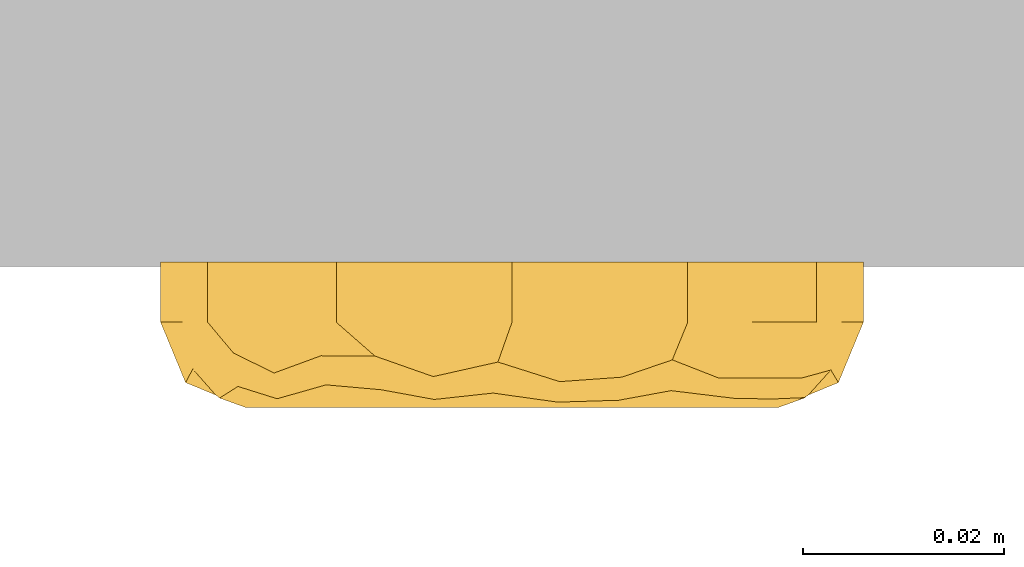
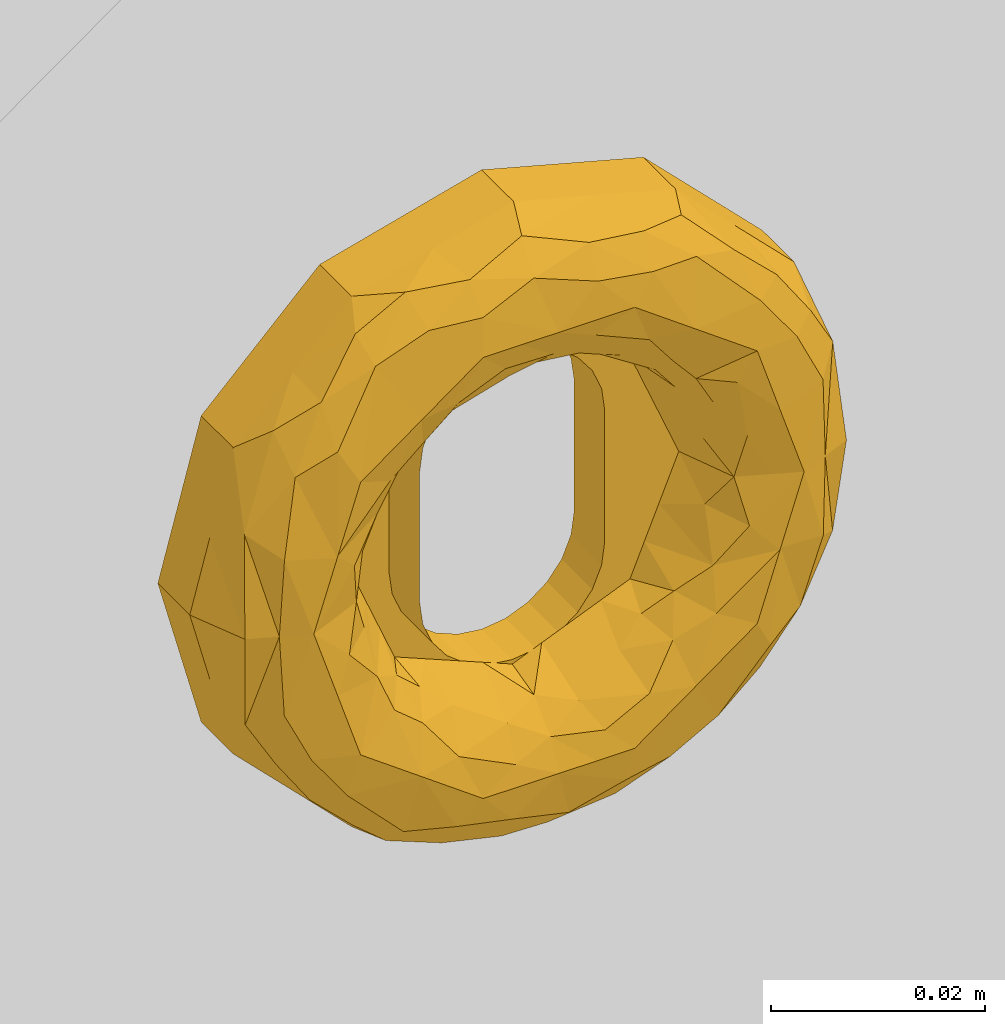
# One storey, part 2 of 2: 1 door.
"""IFC2X3 building model written with IfcOpenShell, lengths in feet."""

from ifc_helpers import new_model, entity, si_unit, converted_unit, derived_unit, direction, frame, origin, place, context, subcontext, project, spatial, face_set, surface_model, source, transform, mapped, type_object, type_shapes, element, save


model = new_model("IFC2X3")

# Units and contexts
model_context = context("Model", 3, precision=0.0001, world=origin(), true_north=direction((6.12303176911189e-17, 1.0)))
body_context = subcontext(model_context, "Body", "Model", "MODEL_VIEW")
ifc_project = project(units=[converted_unit("LENGTHUNIT", "FOOT", entity("IfcRatioMeasure", 0.3048), si_unit("LENGTHUNIT", "METRE"), dimensions=[1, 0, 0, 0, 0, 0, 0]), converted_unit("AREAUNIT", "SQUARE FOOT", entity("IfcRatioMeasure", 0.09290304), si_unit("AREAUNIT", "SQUARE_METRE"), dimensions=[2, 0, 0, 0, 0, 0, 0]), converted_unit("VOLUMEUNIT", "CUBIC FOOT", entity("IfcRatioMeasure", 0.028316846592), si_unit("VOLUMEUNIT", "CUBIC_METRE"), dimensions=[3, 0, 0, 0, 0, 0, 0]), converted_unit("PLANEANGLEUNIT", "DEGREE", entity("IfcRatioMeasure", 0.0174532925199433), si_unit("PLANEANGLEUNIT", "RADIAN"), dimensions=[0, 0, 0, 0, 0, 0, 0]), si_unit("MASSUNIT", "GRAM", prefix="KILO"), derived_unit("MASSDENSITYUNIT", [(si_unit("MASSUNIT", "GRAM", prefix="KILO"), 1), (si_unit("LENGTHUNIT", "METRE"), -3)]), si_unit("TIMEUNIT", "SECOND"), si_unit("FREQUENCYUNIT", "HERTZ"), si_unit("THERMODYNAMICTEMPERATUREUNIT", "DEGREE_CELSIUS"), derived_unit("THERMALTRANSMITTANCEUNIT", [(si_unit("MASSUNIT", "GRAM", prefix="KILO"), 1), (si_unit("THERMODYNAMICTEMPERATUREUNIT", "KELVIN"), -1), (si_unit("TIMEUNIT", "SECOND"), -3)]), derived_unit("VOLUMETRICFLOWRATEUNIT", [(si_unit("LENGTHUNIT", "METRE"), 3), (si_unit("TIMEUNIT", "SECOND"), -1)]), si_unit("ELECTRICCURRENTUNIT", "AMPERE"), si_unit("ELECTRICVOLTAGEUNIT", "VOLT"), si_unit("POWERUNIT", "WATT"), si_unit("FORCEUNIT", "NEWTON"), si_unit("ILLUMINANCEUNIT", "LUX"), si_unit("LUMINOUSFLUXUNIT", "LUMEN"), si_unit("LUMINOUSINTENSITYUNIT", "CANDELA"), derived_unit("USERDEFINED", [(si_unit("MASSUNIT", "GRAM", prefix="KILO"), -1), (si_unit("LENGTHUNIT", "METRE"), -2), (si_unit("TIMEUNIT", "SECOND"), 3), (si_unit("LUMINOUSFLUXUNIT", "LUMEN"), 1)]), derived_unit("LINEARVELOCITYUNIT", [(si_unit("LENGTHUNIT", "METRE"), 1), (si_unit("TIMEUNIT", "SECOND"), -1)]), si_unit("PRESSUREUNIT", "PASCAL"), derived_unit("USERDEFINED", [(si_unit("LENGTHUNIT", "METRE"), -2), (si_unit("MASSUNIT", "GRAM", prefix="KILO"), 1), (si_unit("TIMEUNIT", "SECOND"), -2)])], contexts=[model_context])

# Site, building, storey
site_placement = place(None, origin())
site = spatial("IfcSite", under=ifc_project, at=site_placement, Name="Default", CompositionType="ELEMENT")
building_placement = place(site_placement, origin())
building = spatial("IfcBuilding", under=site, at=building_placement, CompositionType="ELEMENT")
storey_placement = place(building_placement, origin())
storey = spatial("IfcBuildingStorey", under=building, at=storey_placement, Name="Level 1", CompositionType="ELEMENT", Elevation=0.0)

# Door
door_style = type_object("IfcDoorStyle", Name="dline_Hardware_TomDixonCollection_Escutcheons_Oval_Half_SnapOn_5.25", ConstructionType="NOTDEFINED", OperationType="DOUBLE_SWING_RIGHT", ParameterTakesPrecedence=False, Sizeable=False)
shared_shape = source(origin(), body_context, "Body", "SurfaceModel", [
    surface_model("IfcFaceBasedSurfaceModel", [(-0.114829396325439, 0.0, -0.00161922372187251), (-0.0994451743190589, 0.0574146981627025, -0.00161922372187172), (-0.0574146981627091, 0.0994451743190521, -0.00161922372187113), (0.0, 0.114829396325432, -0.00161922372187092), (0.0574146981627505, 0.099445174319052, -0.00161922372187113), (0.0994451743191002, 0.0574146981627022, -0.00161922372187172), (0.11482939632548, 0.0, -0.00161922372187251), (0.0328083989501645, 0.0, -0.00161922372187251), (0.0328083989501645, 0.0246062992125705, -0.00161922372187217), (0.0316904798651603, 0.0330977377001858, -0.00161922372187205), (0.0284129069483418, 0.041010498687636, -0.00161922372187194), (0.0231990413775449, 0.0478053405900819, -0.00161922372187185), (0.0164041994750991, 0.0530192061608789, -0.00161922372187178), (0.00849143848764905, 0.0562967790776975, -0.00161922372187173), (0.0, 0.0574146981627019, -0.00161922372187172), (-0.00849143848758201, 0.0562967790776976, -0.00161922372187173), (-0.0164041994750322, 0.0530192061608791, -0.00161922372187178), (-0.023199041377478, 0.0478053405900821, -0.00161922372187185), (-0.0284129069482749, 0.0410104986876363, -0.00161922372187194), (-0.0316904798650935, 0.0330977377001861, -0.00161922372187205), (-0.0328083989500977, 0.0246062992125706, -0.00161922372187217), (-0.0328083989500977, 0.0, -0.00161922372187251), (0.0994451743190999, -0.0574146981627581, -0.0016192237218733), (0.0574146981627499, -0.0994451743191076, -0.00161922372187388), (0.0, -0.114829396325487, -0.0016192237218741), (-0.0574146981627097, -0.099445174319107, -0.00161922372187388), (-0.0994451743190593, -0.0574146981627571, -0.0016192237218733), (-0.0328083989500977, -0.0246062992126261, -0.00161922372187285), (-0.0316904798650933, -0.0330977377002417, -0.00161922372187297), (-0.0284129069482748, -0.0410104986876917, -0.00161922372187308), (-0.0231990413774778, -0.0478053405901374, -0.00161922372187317), (-0.0164041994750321, -0.0530192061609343, -0.00161922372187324), (-0.00849143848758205, -0.0562967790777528, -0.00161922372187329), (0.0, -0.0574146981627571, -0.0016192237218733), (0.0084914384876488, -0.0562967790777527, -0.00161922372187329), (0.0164041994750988, -0.0530192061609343, -0.00161922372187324), (0.0231990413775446, -0.0478053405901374, -0.00161922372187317), (0.0284129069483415, -0.0410104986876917, -0.00161922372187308), (0.0316904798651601, -0.0330977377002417, -0.00161922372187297), (0.0328083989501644, -0.0246062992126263, -0.00161922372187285), (0.103991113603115, 0.0404490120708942, 0.0180446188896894), (0.107137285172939, 0.0287073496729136, -0.0016192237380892), (0.109410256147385, 0.0202245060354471, 0.0180446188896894), (-0.107137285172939, 0.0287073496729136, 0.0180446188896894), (-0.0994451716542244, 0.0574146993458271, 0.0180446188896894), (-0.107137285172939, 0.0287073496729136, -0.0016192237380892), (0.0784299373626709, 0.0784299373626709, 0.0180446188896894), (0.0994451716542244, 0.0574146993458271, 0.0180446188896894), (0.0784299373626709, 0.0784299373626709, -0.0016192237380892), (0.114829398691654, 0.0, 0.0180446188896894), (0.0574146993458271, 0.0994451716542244, 0.0180446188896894), (0.0287073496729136, 0.107137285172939, -0.0016192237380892), (0.0, 0.114829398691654, 0.0180446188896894), (0.0287073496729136, 0.107137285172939, 0.0180446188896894), (-0.0287073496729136, 0.107137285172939, 0.0180446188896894), (-0.0287073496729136, 0.107137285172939, -0.0016192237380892), (-0.0784299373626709, 0.0784299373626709, -0.0016192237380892), (-0.0784299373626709, 0.0784299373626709, 0.0180446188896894), (-0.0574146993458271, 0.0994451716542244, 0.0180446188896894), (-0.114829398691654, 0.0, 0.0180446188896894), (-0.103991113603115, -0.0404490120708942, 0.0180446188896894), (-0.107137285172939, -0.0287073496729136, -0.0016192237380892), (-0.109410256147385, -0.0202245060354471, 0.0180446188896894), (0.107137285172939, -0.0287073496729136, 0.0180446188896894), (0.0994451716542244, -0.0574146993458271, 0.0180446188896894), (0.107137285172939, -0.0287073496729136, -0.0016192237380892), (-0.0784299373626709, -0.0784299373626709, 0.0180446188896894), (-0.0994451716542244, -0.0574146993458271, 0.0180446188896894), (-0.0784299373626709, -0.0784299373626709, -0.0016192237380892), (-0.0574146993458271, -0.0994451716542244, 0.0180446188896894), (-0.0287073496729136, -0.107137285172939, -0.0016192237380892), (0.0, -0.114829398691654, 0.0180446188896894), (-0.0287073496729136, -0.107137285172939, 0.0180446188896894), (0.0287073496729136, -0.107137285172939, 0.0180446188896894), (0.0287073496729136, -0.107137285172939, -0.0016192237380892), (0.0784299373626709, -0.0784299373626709, -0.0016192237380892), (0.0784299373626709, -0.0784299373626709, 0.0180446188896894), (0.0574146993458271, -0.0994451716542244, 0.0180446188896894), (0.104185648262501, 0.0354321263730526, 0.0336624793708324), (0.10769384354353, 0.0266302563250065, 0.0180446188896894), (-0.00460470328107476, 0.111512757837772, 0.0310563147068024), (-0.0257417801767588, 0.105345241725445, 0.035802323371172), (-0.00619756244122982, 0.102307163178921, 0.0411922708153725), (0.0358880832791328, 0.102162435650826, 0.0359968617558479), (0.0155927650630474, 0.105819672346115, 0.0374582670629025), (0.095525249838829, 0.0295866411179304, 0.0426846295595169), (0.0948657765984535, 0.0518237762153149, 0.0362137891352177), (0.086100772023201, 0.0492820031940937, 0.0430898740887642), (-0.0607702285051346, 0.086708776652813, 0.03851168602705), (-0.0427446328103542, 0.0948088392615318, 0.0401071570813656), (-0.0447977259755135, 0.103246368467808, 0.0290958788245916), (0.106661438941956, 0.0, 0.0377638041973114), (0.0676873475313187, 0.0841498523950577, 0.0363340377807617), (0.0520024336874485, 0.0896197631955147, 0.0403992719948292), (0.0733057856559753, 0.0671199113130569, 0.0429983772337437), (0.0703377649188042, 0.051103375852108, 0.0459317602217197), (0.0523817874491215, 0.0989614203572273, 0.0303458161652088), (0.0348720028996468, 0.0918425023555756, 0.0435407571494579), (-0.0623906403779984, 0.093721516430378, 0.0289958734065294), (0.0968018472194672, 0.0, 0.0418477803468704), (0.0486022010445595, 0.0668951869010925, 0.0459317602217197), (-0.104311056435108, 0.0357333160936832, 0.0333381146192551), (-0.0895434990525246, 0.0554412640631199, 0.0390218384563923), (-0.0910296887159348, 0.0668764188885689, 0.0280956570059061), (-0.0253979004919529, 0.0954931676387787, 0.0432791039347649), (-0.0486022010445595, 0.0668951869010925, 0.0459317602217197), (-0.0777445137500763, 0.0769081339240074, 0.0346352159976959), (-0.0767557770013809, 0.0629682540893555, 0.0430542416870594), (-0.0955414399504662, 0.0286489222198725, 0.0428196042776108), (-0.0968018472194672, 0.0, 0.0418477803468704), (-0.10769384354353, 0.0266302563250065, 0.0180446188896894), (-0.106661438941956, 0.0, 0.0377638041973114), (0.0149465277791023, 0.0955802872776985, 0.0441532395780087), (-0.0786400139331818, 0.025551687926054, 0.0459317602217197), (-0.0869422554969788, 0.0, 0.0459317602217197), (0.0869422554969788, 0.0, 0.0459317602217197), (0.0786400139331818, 0.025551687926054, 0.0459317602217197), (0.0827525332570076, 0.069546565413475, 0.0362165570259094), (0.0268666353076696, 0.0826869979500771, 0.0459317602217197), (0.0, 0.0826869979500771, 0.0459317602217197), (-0.0703377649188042, 0.051103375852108, 0.0459317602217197), (-0.0268666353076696, 0.0826869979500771, 0.0459317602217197), (-0.104185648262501, -0.0354321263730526, 0.0336624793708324), (-0.10769384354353, -0.0266302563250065, 0.0180446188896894), (0.0895434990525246, -0.0554412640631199, 0.0390218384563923), (0.0786400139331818, -0.025551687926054, 0.0459317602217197), (0.0767557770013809, -0.0629682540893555, 0.0430542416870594), (0.10769384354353, -0.0266302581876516, 0.0180446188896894), (0.104311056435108, -0.0357333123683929, 0.0333381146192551), (-0.095525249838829, -0.0295866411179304, 0.0426846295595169), (-0.0948657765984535, -0.0518237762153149, 0.0362137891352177), (-0.086100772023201, -0.0492820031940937, 0.0430898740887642), (-0.0486022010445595, -0.0668951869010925, 0.0459317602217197), (-0.0703377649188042, -0.051103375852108, 0.0459317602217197), (-0.0733057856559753, -0.0671199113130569, 0.0429983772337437), (-0.0358880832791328, -0.102162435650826, 0.0359968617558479), (-0.0155927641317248, -0.105819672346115, 0.0374582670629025), (-0.0676873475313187, -0.0841498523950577, 0.0363340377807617), (-0.0520024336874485, -0.0896197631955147, 0.0403992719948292), (-0.0348720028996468, -0.0918425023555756, 0.0435407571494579), (0.00460470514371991, -0.111512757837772, 0.0310563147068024), (0.0910296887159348, -0.0668764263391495, 0.0280956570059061), (0.0607702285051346, -0.0867087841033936, 0.03851168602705), (0.0447977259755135, -0.103246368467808, 0.0290958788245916), (0.0623906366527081, -0.093721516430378, 0.0289958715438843), (0.0427446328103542, -0.0948088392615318, 0.0401071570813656), (0.025397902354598, -0.0954931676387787, 0.0432791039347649), (0.0257417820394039, -0.105345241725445, 0.035802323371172), (0.0777445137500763, -0.0769081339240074, 0.0346352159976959), (0.0955414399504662, -0.0286489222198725, 0.0428196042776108), (0.00619756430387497, -0.102307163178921, 0.0411922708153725), (-0.0149465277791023, -0.0955802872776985, 0.0441532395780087), (0.0486022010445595, -0.0668951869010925, 0.0459317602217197), (-0.0523817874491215, -0.0989614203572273, 0.0303458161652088), (-0.0786400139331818, -0.025551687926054, 0.0459317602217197), (-0.0827525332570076, -0.069546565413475, 0.0362165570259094), (-0.0268666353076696, -0.0826869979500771, 0.0459317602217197), (0.0, -0.0826869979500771, 0.0459317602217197), (0.0703377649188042, -0.051103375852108, 0.0459317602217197), (0.0268666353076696, -0.0826869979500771, 0.0459317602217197), (0.0595088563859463, 0.030643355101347, 0.0374716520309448), (0.0784134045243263, 0.0262491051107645, 0.0459317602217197), (0.0484802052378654, 0.0383875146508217, 0.0301881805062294), (0.044356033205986, 0.052351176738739, 0.0390642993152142), (0.0548929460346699, 0.0432777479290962, 0.0401194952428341), (-0.0606496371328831, 0.0123952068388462, 0.0303223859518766), (-0.0519581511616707, 0.0171627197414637, 0.017224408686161), (-0.0590671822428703, 0.0, 0.017224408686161), (0.0724360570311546, 0.0148040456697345, 0.0427116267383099), (0.06114686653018, 0.0148187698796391, 0.0322035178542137), (0.0669351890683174, 0.0, 0.0374716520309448), (0.0590671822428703, 0.0, 0.017224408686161), (0.000194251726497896, 0.0621994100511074, 0.0309092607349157), (0.000380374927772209, 0.0715737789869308, 0.0413154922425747), (0.0129081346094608, 0.0648935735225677, 0.0366455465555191), (0.0519581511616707, 0.0171627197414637, 0.017224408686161), (0.0337963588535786, 0.0663290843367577, 0.0429736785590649), (-0.0578487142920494, 0.0450543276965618, 0.0423803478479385), (-0.0784134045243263, 0.0262491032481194, 0.0459317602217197), (0.0468624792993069, 0.0294647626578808, 0.017224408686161), (-0.0595088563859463, 0.030643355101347, 0.0374716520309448), (-0.0700549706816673, 0.0169776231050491, 0.0416431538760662), (-0.0337963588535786, 0.0663290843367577, 0.0429736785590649), (-0.0123898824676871, 0.0651603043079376, 0.0368258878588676), (-0.029567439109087, 0.055287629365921, 0.0318241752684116), (-0.0669351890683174, 0.0, 0.0374716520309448), (-0.044356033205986, 0.052351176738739, 0.0390642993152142), (-0.0487650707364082, 0.039685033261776, 0.0321276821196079), (0.0417668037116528, 0.0417668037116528, 0.017224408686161), (0.0394373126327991, 0.0467448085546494, 0.0286699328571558), (0.0143742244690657, 0.0754772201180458, 0.0440352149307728), (0.0208834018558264, 0.0504169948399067, 0.017224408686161), (0.0104417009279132, 0.0547420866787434, 0.017224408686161), (-0.0313251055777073, 0.0460918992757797, 0.017224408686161), (-0.0390795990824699, 0.0469961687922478, 0.0285797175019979), (0.0295674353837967, 0.0552876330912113, 0.0318241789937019), (-0.0104417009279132, 0.0547420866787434, 0.017224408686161), (-0.017739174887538, 0.0738889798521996, 0.0436904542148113), (-0.0134333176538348, 0.0826869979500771, 0.0459317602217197), (0.0313251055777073, 0.0460918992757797, 0.017224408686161), (-0.0417668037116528, 0.0417668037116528, 0.017224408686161), (-0.0468624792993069, 0.0294647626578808, 0.017224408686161), (-0.0208834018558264, 0.0504169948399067, 0.017224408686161), (0.0, 0.0590671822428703, 0.017224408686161), (-0.0784134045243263, -0.0262491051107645, 0.0459317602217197), (-0.0695305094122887, -0.0168505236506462, 0.0412946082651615), (-0.0647844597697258, -0.0398912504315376, 0.0437298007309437), (-0.0295674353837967, -0.0552876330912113, 0.0318241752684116), (-0.0435471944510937, -0.0435946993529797, 0.029723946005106), (-0.0313251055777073, -0.0460918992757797, 0.017224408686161), (-0.0208834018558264, -0.0504169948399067, 0.017224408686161), (-0.0104417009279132, -0.0547420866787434, 0.017224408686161), (-0.0129081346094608, -0.0648935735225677, 0.0366455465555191), (-0.0443560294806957, -0.0523511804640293, 0.0390642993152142), (-0.0530390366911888, -0.042167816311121, 0.0382854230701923), (-0.0743755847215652, -0.0386762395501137, 0.0459317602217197), (-0.0417668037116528, -0.0417668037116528, 0.017224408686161), (-0.0510150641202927, -0.0340855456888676, 0.0291330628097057), (0.0606496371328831, -0.0123952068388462, 0.0303223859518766), (0.0519581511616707, -0.0171627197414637, 0.017224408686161), (-0.0337963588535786, -0.0663290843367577, 0.0429736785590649), (0.044356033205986, -0.052351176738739, 0.0390642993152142), (0.0337963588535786, -0.0663290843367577, 0.0429736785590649), (0.0578487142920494, -0.0450543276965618, 0.0423803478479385), (0.0784134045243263, -0.0262491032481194, 0.0459317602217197), (0.0595088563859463, -0.030643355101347, 0.0374716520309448), (0.0700549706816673, -0.0169776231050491, 0.0416431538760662), (-0.060554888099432, -0.0119150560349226, 0.0299327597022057), (0.0123898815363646, -0.0651603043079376, 0.0368258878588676), (0.0295674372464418, -0.055287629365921, 0.0318241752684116), (-0.0776933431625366, 0.0, 0.0420208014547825), (0.0487650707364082, -0.039685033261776, 0.0321276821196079), (-0.0143742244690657, -0.0754772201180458, 0.0440352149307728), (-0.000194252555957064, -0.0621994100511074, 0.0309092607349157), (-0.000380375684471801, -0.0715737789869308, 0.0413154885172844), (0.0313251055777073, -0.0460918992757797, 0.017224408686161), (0.0390795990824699, -0.0469961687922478, 0.0285797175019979), (0.0104417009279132, -0.0547420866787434, 0.017224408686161), (0.017739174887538, -0.0738889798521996, 0.0436904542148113), (0.0134333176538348, -0.0826869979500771, 0.0459317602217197), (-0.0519581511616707, -0.0171627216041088, 0.017224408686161), (-0.059508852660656, -0.0306433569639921, 0.0374716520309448), (-0.0468624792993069, -0.0294647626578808, 0.017224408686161), (0.0417668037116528, -0.0417668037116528, 0.017224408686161), (0.0468624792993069, -0.0294647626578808, 0.017224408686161), (0.0208834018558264, -0.0504169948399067, 0.017224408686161), (0.0, -0.0590671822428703, 0.017224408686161), (0.0328083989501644, 0.0, 0.0172244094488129), (0.0328083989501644, 0.0246062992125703, 0.0172244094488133), (0.0316904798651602, 0.0330977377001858, 0.0172244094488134), (0.0284129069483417, 0.0410104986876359, 0.0172244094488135), (0.0231990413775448, 0.0478053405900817, 0.0172244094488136), (0.0164041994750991, 0.0530192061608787, 0.0172244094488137), (0.008491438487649, 0.0562967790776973, 0.0172244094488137), (0.0, 0.0574146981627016, 0.0172244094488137), (-0.00849143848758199, 0.0562967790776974, 0.0172244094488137), (-0.0164041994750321, 0.0530192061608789, 0.0172244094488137), (-0.0231990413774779, 0.0478053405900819, 0.0172244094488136), (-0.0284129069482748, 0.0410104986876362, 0.0172244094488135), (-0.0316904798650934, 0.0330977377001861, 0.0172244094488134), (-0.0328083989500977, 0.0246062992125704, 0.0172244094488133), (-0.0328083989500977, 0.0, 0.0172244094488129), (-0.0328083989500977, -0.0246062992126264, 0.0172244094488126), (-0.0316904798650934, -0.0330977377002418, 0.0172244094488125), (-0.0284129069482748, -0.0410104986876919, 0.0172244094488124), (-0.0231990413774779, -0.0478053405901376, 0.0172244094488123), (-0.0164041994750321, -0.0530192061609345, 0.0172244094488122), (-0.00849143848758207, -0.056296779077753, 0.0172244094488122), (0.0, -0.0574146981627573, 0.0172244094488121), (0.00849143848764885, -0.056296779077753, 0.0172244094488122), (0.0164041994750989, -0.0530192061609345, 0.0172244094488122), (0.0231990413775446, -0.0478053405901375, 0.0172244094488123), (0.0284129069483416, -0.0410104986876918, 0.0172244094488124), (0.0316904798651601, -0.0330977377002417, 0.0172244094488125), (0.0328083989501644, -0.0246062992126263, 0.0172244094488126)], [face_set([[[0, 1, 2, 3, 4, 5, 6, 7, 8, 9, 10, 11, 12, 13, 14, 15, 16, 17, 18, 19, 20, 21]], [[6, 22, 23, 24, 25, 26, 0, 21, 27, 28, 29, 30, 31, 32, 33, 34, 35, 36, 37, 38, 39, 7]], [[5, 40, 41]], [[41, 40, 42]], [[43, 44, 1, 45]], [[46, 47, 5, 48]], [[6, 41, 42]], [[42, 49, 6]], [[50, 46, 48, 4]], [[51, 3, 52, 53]], [[5, 47, 40]], [[4, 51, 53, 50]], [[54, 52, 3, 55]], [[56, 1, 44, 57]], [[2, 56, 57, 58]], [[45, 0, 59, 43]], [[55, 2, 58, 54]], [[26, 60, 61]], [[61, 60, 62]], [[63, 64, 22, 65]], [[66, 67, 26, 68]], [[0, 61, 62]], [[62, 59, 0]], [[69, 66, 68, 25]], [[70, 24, 71, 72]], [[26, 67, 60]], [[25, 70, 72, 69]], [[73, 71, 24, 74]], [[75, 22, 64, 76]], [[23, 75, 76, 77]], [[65, 6, 49, 63]], [[74, 23, 77, 73]], [[47, 78, 79]], [[80, 81, 82]], [[83, 53, 84]], [[85, 86, 87]], [[88, 89, 90]], [[78, 91, 79]], [[92, 93, 94]], [[78, 86, 85]], [[87, 94, 95]], [[96, 93, 92]], [[93, 83, 97]], [[80, 54, 81]], [[80, 84, 53]], [[91, 49, 79]], [[90, 98, 88]], [[85, 99, 78]], [[100, 95, 94]], [[101, 102, 103]], [[86, 47, 46]], [[89, 104, 81]], [[104, 89, 105]], [[106, 107, 88]], [[108, 101, 109]], [[50, 92, 46]], [[110, 111, 101]], [[84, 112, 97]], [[102, 113, 107]], [[44, 103, 57]], [[101, 44, 110]], [[110, 59, 111]], [[109, 114, 108]], [[99, 85, 115]], [[99, 91, 78]], [[47, 86, 78]], [[87, 95, 116]], [[116, 115, 85]], [[87, 86, 117]], [[87, 117, 94]], [[85, 87, 116]], [[92, 94, 117]], [[100, 94, 93]], [[92, 117, 46]], [[96, 92, 50]], [[52, 80, 53]], [[83, 93, 96]], [[96, 50, 53]], [[53, 83, 96]], [[97, 100, 93]], [[112, 84, 82]], [[84, 97, 83]], [[100, 97, 118]], [[104, 119, 82]], [[118, 97, 112]], [[119, 118, 112]], [[104, 82, 81]], [[119, 112, 82]], [[84, 80, 82]], [[58, 90, 54]], [[88, 120, 105]], [[119, 104, 121]], [[89, 81, 90]], [[121, 104, 105]], [[105, 89, 88]], [[80, 52, 54]], [[54, 90, 81]], [[90, 58, 98]], [[103, 102, 106]], [[106, 88, 98]], [[98, 58, 57]], [[57, 106, 98]], [[107, 106, 102]], [[57, 103, 106]], [[101, 103, 44]], [[86, 46, 117]], [[88, 107, 120]], [[102, 108, 113]], [[113, 120, 107]], [[101, 111, 109]], [[113, 108, 114]], [[101, 108, 102]], [[67, 122, 123]], [[124, 125, 126]], [[127, 91, 128]], [[129, 130, 131]], [[132, 133, 134]], [[122, 111, 123]], [[135, 72, 136]], [[122, 130, 129]], [[131, 134, 133]], [[137, 138, 134]], [[138, 135, 139]], [[130, 67, 66]], [[140, 136, 72]], [[129, 109, 122]], [[128, 124, 141]], [[111, 59, 123]], [[64, 141, 76]], [[142, 143, 144]], [[69, 137, 66]], [[145, 146, 147]], [[140, 73, 147]], [[148, 126, 142]], [[149, 128, 99]], [[140, 147, 150]], [[142, 145, 143]], [[136, 151, 139]], [[146, 145, 152]], [[153, 138, 137]], [[128, 64, 127]], [[127, 49, 91]], [[99, 115, 149]], [[109, 129, 114]], [[109, 111, 122]], [[67, 130, 122]], [[131, 133, 154]], [[154, 114, 129]], [[131, 130, 155]], [[131, 155, 134]], [[129, 131, 154]], [[137, 134, 155]], [[132, 134, 138]], [[137, 155, 66]], [[153, 137, 69]], [[71, 140, 72]], [[135, 138, 153]], [[153, 69, 72]], [[72, 135, 153]], [[139, 132, 138]], [[151, 136, 150]], [[136, 139, 135]], [[132, 139, 156]], [[146, 157, 150]], [[156, 139, 151]], [[157, 156, 151]], [[146, 150, 147]], [[157, 151, 150]], [[136, 140, 150]], [[77, 143, 73]], [[142, 158, 152]], [[157, 146, 159]], [[145, 147, 143]], [[159, 146, 152]], [[152, 145, 142]], [[140, 71, 73]], [[73, 143, 147]], [[143, 77, 144]], [[141, 124, 148]], [[148, 142, 144]], [[144, 77, 76]], [[76, 148, 144]], [[126, 148, 124]], [[76, 141, 148]], [[128, 141, 64]], [[130, 66, 155]], [[142, 126, 158]], [[124, 149, 125]], [[125, 158, 126]], [[128, 91, 99]], [[125, 149, 115]], [[128, 149, 124]], [[160, 95, 161]], [[162, 163, 164]], [[160, 162, 164]], [[165, 166, 167]], [[160, 168, 169]], [[170, 171, 169]], [[172, 173, 174]], [[175, 160, 169]], [[176, 100, 163]], [[163, 100, 164]], [[177, 178, 120]], [[160, 179, 162]], [[180, 166, 165]], [[181, 180, 165]], [[178, 177, 180]], [[182, 183, 184]], [[181, 185, 114]], [[186, 187, 177]], [[178, 180, 181]], [[168, 161, 115]], [[188, 189, 162]], [[190, 176, 118]], [[186, 105, 182]], [[191, 192, 174]], [[184, 193, 194]], [[163, 195, 176]], [[172, 183, 173]], [[105, 121, 182]], [[172, 196, 183]], [[173, 119, 190]], [[173, 197, 198]], [[118, 100, 176]], [[195, 191, 174]], [[176, 195, 174]], [[189, 199, 195]], [[186, 182, 184]], [[105, 177, 120]], [[197, 183, 182]], [[187, 186, 194]], [[188, 162, 179]], [[160, 175, 179]], [[163, 162, 189]], [[164, 95, 160]], [[95, 164, 100]], [[189, 195, 163]], [[175, 169, 171]], [[191, 195, 199]], [[189, 188, 199]], [[170, 169, 168]], [[170, 168, 115]], [[161, 168, 160]], [[178, 181, 114]], [[185, 181, 165]], [[185, 165, 167]], [[200, 201, 187]], [[201, 166, 180]], [[180, 177, 187]], [[186, 177, 105]], [[180, 187, 201]], [[200, 187, 194]], [[184, 202, 193]], [[194, 186, 184]], [[193, 200, 194]], [[174, 192, 172]], [[196, 202, 183]], [[203, 172, 192]], [[174, 173, 190]], [[198, 119, 173]], [[197, 198, 121]], [[182, 197, 121]], [[183, 197, 173]], [[174, 190, 176]], [[118, 190, 119]], [[184, 183, 202]], [[196, 172, 203]], [[204, 205, 206]], [[207, 208, 209]], [[210, 211, 212]], [[208, 213, 214]], [[206, 215, 133]], [[216, 208, 217]], [[218, 219, 171]], [[206, 204, 215]], [[220, 132, 213]], [[221, 152, 222]], [[223, 224, 158]], [[132, 133, 213]], [[225, 219, 218]], [[226, 225, 218]], [[205, 185, 227]], [[222, 228, 229]], [[204, 114, 230]], [[221, 231, 223]], [[224, 225, 226]], [[227, 185, 167]], [[226, 170, 115]], [[232, 220, 156]], [[233, 234, 212]], [[224, 223, 225]], [[229, 235, 236]], [[213, 207, 220]], [[233, 228, 234]], [[152, 159, 222]], [[233, 237, 228]], [[234, 157, 232]], [[234, 238, 239]], [[156, 132, 220]], [[207, 210, 212]], [[220, 207, 212]], [[208, 216, 209]], [[221, 222, 229]], [[152, 223, 158]], [[238, 228, 222]], [[231, 221, 236]], [[209, 210, 207]], [[230, 205, 204]], [[205, 230, 185]], [[240, 241, 227]], [[205, 227, 241]], [[240, 227, 167]], [[241, 214, 206]], [[213, 133, 214]], [[241, 206, 205]], [[206, 214, 133]], [[241, 217, 214]], [[213, 208, 207]], [[240, 217, 241]], [[242, 216, 217]], [[214, 217, 208]], [[242, 217, 240]], [[224, 226, 115]], [[170, 226, 218]], [[170, 218, 171]], [[243, 244, 231]], [[244, 219, 225]], [[225, 223, 231]], [[221, 223, 152]], [[225, 231, 244]], [[243, 231, 236]], [[229, 245, 235]], [[236, 221, 229]], [[235, 243, 236]], [[212, 211, 233]], [[237, 245, 228]], [[246, 233, 211]], [[212, 234, 232]], [[239, 157, 234]], [[238, 239, 159]], [[222, 238, 159]], [[228, 238, 234]], [[212, 232, 220]], [[156, 232, 157]], [[229, 228, 245]], [[237, 233, 246]], [[171, 247, 248, 249, 250, 251, 252, 253, 254, 255, 256, 257, 258, 259, 260, 261, 167, 200, 203, 188]], [[167, 261, 262, 263, 264, 265, 266, 267, 268, 269, 270, 271, 272, 273, 274, 247, 171, 243, 246, 216]], [[248, 247, 274, 39, 7, 8]], [[39, 274, 273, 38]], [[38, 273, 272, 37]], [[36, 271, 270, 35]], [[37, 272, 271, 36]], [[35, 270, 269, 34]], [[268, 33, 34, 269]], [[33, 268, 267, 32]], [[32, 267, 266, 31]], [[30, 265, 264, 29]], [[31, 266, 265, 30]], [[29, 264, 263, 28]], [[262, 27, 28, 263]], [[262, 261, 260, 20, 21, 27]], [[20, 260, 259, 19]], [[19, 259, 258, 18]], [[17, 257, 256, 16]], [[18, 258, 257, 17]], [[16, 256, 255, 15]], [[254, 14, 15, 255]], [[14, 254, 253, 13]], [[13, 253, 252, 12]], [[11, 251, 250, 10]], [[12, 252, 251, 11]], [[10, 250, 249, 9]], [[248, 8, 9, 249]]])]),
])
type_shapes(door_style, [shared_shape])
door_placement = place(storey_placement, frame((-0.495815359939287, 6.84119764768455, 3.44618032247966), z_axis=(0.0, -1.0, 0.0), x_axis=(-1.0, 0.0, 0.0)))
element("IfcDoor", 1, at=door_placement, inside=storey, type_object=door_style, Name="12.9002.02.060:dline_Hardware_TomDixonCollection_Escutcheons_Oval_Half_SnapOn_5.25", ObjectType="12.9002.02.060:dline_Hardware_TomDixonCollection_Escutcheons_Oval_Half_SnapOn_5.25", OverallHeight=0.409263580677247, OverallWidth=0.442913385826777, context=body_context, shape_type="MappedRepresentation", body=[
    mapped(shared_shape, transform((0.0, 0.0, 0.0), scale=1.0)),
])

save(model, "model.ifc")
